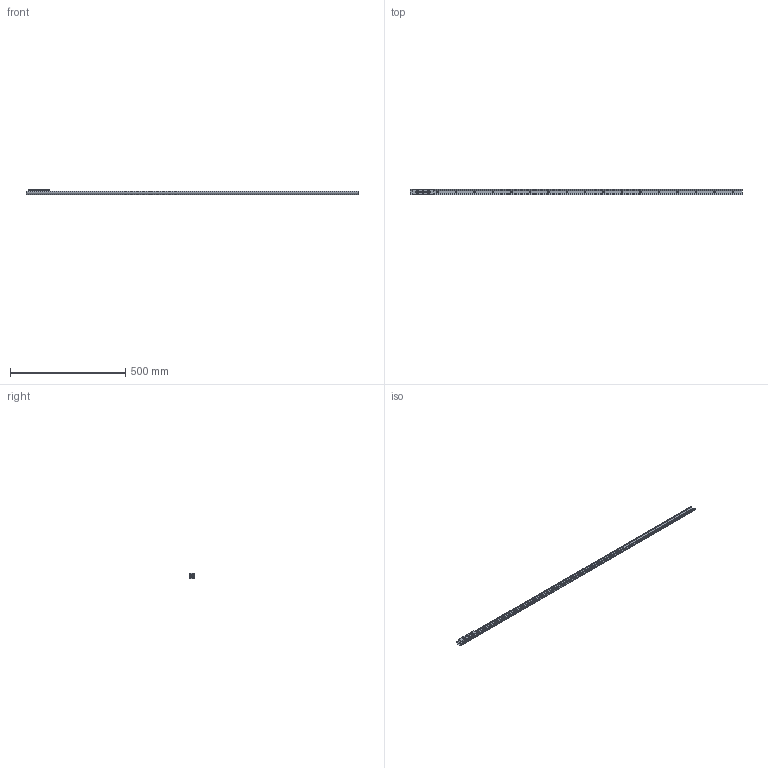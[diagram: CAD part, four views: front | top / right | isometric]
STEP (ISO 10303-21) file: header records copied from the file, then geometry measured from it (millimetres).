
FILE_DESCRIPTION( ( 'STEP AP214' ), '1' );
FILE_NAME( 'p:/temp/worker_21/temp/exporttempdir_4652_187_QOpn8/format_0/TEN26-1440-CEN26-92.stp', '2020-05-08T18:39:33', ( 'License CC BY-ND 4.0' ), ( 'CADENAS' ), ' ', 'PARTsolutions', ' ' );
FILE_SCHEMA( ( 'AUTOMOTIVE_DESIGN { 1 0 10303 214 1 1 1 1 }' ) );
Length unit declared in the file: millimetre
Products named in the file (6): TEN26-1440-CEN26-92; _TEN 26-1440; _CEN26-92_1; _RLN26(11.2_M5); _RLA26(11.2_M5); _LAN-26
Assembly tree (8 placements, depth 2):
  TEN26-1440-CEN26-92
    _TEN 26-1440
    _CEN26-92_1
    _RLN26(11.2_M5)  x2
    _RLA26(11.2_M5)
    _LAN-26  x3
Bounding box: 1440 x 26 x 22 mm (x, y, z)
Volume: 162209.4 mm3; surface area: 136543.2 mm2
Topology: 8 solids, 8 shells, 251 faces, 555 edges, 347 vertices
Faces by surface type: plane 131, cylinder 87, cone 24, bspline 9
Full cylindrical faces by diameter (mm): 2.5 x2, 4.134 x5, 4.5 x3, 5 x6, 6.5 x18, 9.3 x3, 11.2 x6, 11.6 x6, 15.7 x6, 16.7 x6
Entity records: 6014 total; most frequent: CARTESIAN_POINT 875, DIRECTION 820, ORIENTED_EDGE 606, AXIS2_PLACEMENT_3D 346, EDGE_LOOP 304, EDGE_CURVE 303, VERTEX_POINT 233, FACE_OUTER_BOUND 220
